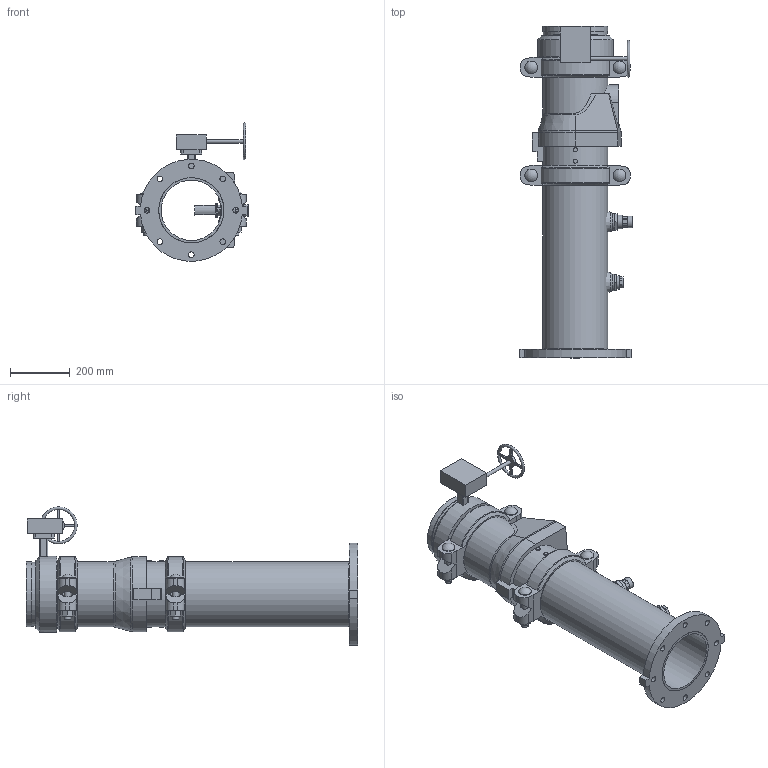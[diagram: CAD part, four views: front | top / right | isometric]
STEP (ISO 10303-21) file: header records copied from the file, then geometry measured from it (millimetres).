
FILE_DESCRIPTION(/* description */ ('VIC DVI PUMP DROP VERT S/380 (OGSxFLG) (S/924-0.75)','CAx-IF Rec.Pracs.---Representation and Presentation of Product Manufacturing Information (PMI)---4.0---2014-10-13'),/* implementation_level */ '2;1');
FILE_NAME(/* name */ 'C:\Users\Public\Documents\Victaulic.Temp\A765\Victaulic_IPS_Vertical DVI_CL 150_Series 380 (OGSxFLG)_924 (0.75)_08.0x08.0 (200x200).stp',/* time_stamp */ '2022-07-25T11:13:40+02:00',/* author */ ('Vjadhav'),/* organization */ ('Victaulic'),/* preprocessor_version */ 'ST-DEVELOPER v18',/* originating_system */ 'Autodesk Inventor 2020',/* authorisation */ '');
FILE_SCHEMA (('AP242_MANAGED_MODEL_BASED_3D_ENGINEERING_MIM_LF { 1 0 10303 442 1 1 4 }'));
Length unit declared in the file: inch
Products named in the file (8): 380_924 (0.75)-08.0x08.0; 741-08.0; Pipe-08.0x08.0; 177N-08.0; 779-08.0; 923-04.0x0.75; 924-04.0x0.75; 761-08.0
Assembly tree (8 placements, depth 2):
  380_924 (0.75)-08.0x08.0
    741-08.0
    Pipe-08.0x08.0
    177N-08.0  x2
    779-08.0
    923-04.0x0.75
    924-04.0x0.75
    761-08.0
Bounding box: 379.16 x 1114.55 x 464.41 mm (x, y, z)
Volume: 15430274 mm3; surface area: 2349207.8 mm2
Topology: 8 solids, 9 shells, 458 faces, 1215 edges, 812 vertices
Faces by surface type: plane 277, cylinder 146, torus 15, cone 14, sphere 4, bspline 2
Full cylindrical faces by diameter (mm): 8.636 x4, 12.446 x1, 12.7 x1, 13.716 x4, 19.05 x8, 22.225 x4, 22.86 x1, 26.67 x2, 38.608 x1, 39.125 x1, 42.85 x4, 45.974 x4, 55.118 x1, 55.626 x2, 202.717 x3, 206.375 x2, 214.401 x6, 219.075 x16, 254 x1
Entity records: 12900 total; most frequent: CARTESIAN_POINT 2733, DIRECTION 2068, ORIENTED_EDGE 1932, EDGE_CURVE 966, AXIS2_PLACEMENT_3D 779, VERTEX_POINT 648, LINE 510, VECTOR 510
